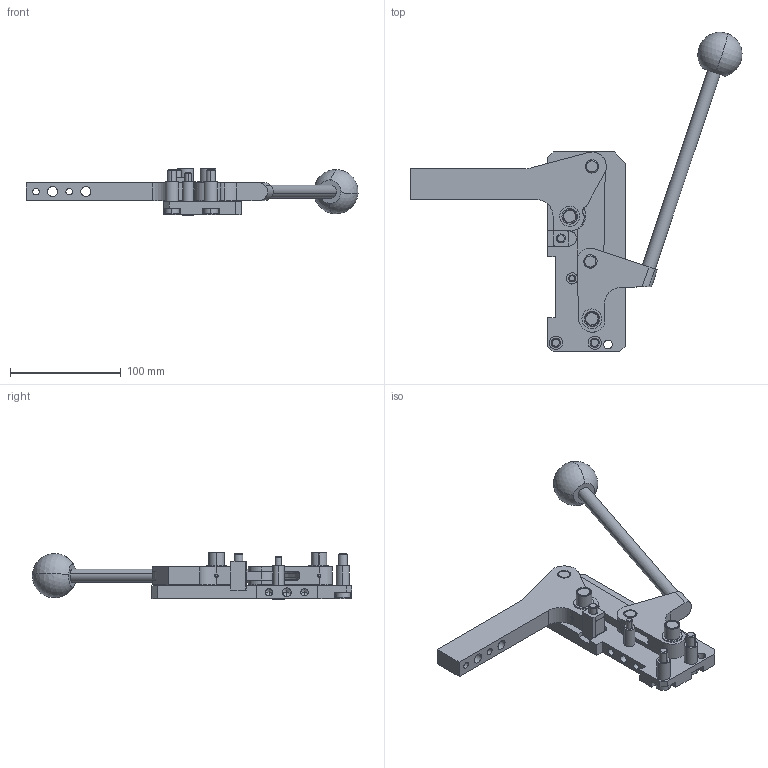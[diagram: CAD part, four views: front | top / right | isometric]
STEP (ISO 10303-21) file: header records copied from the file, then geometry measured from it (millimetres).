
FILE_DESCRIPTION(('CATIA V5 STEP Exchange'),'2;1');
FILE_NAME('G:\Konstruktion\Modelle\HKU_63_A10_TUENKERS.stp','2015-12-14T10:51:04+00:00',('none'),('none'),'CATIA Version 5 Release 19 SP 9 (IN-10)','CATIA V5 STEP AP214','none');
FILE_SCHEMA(('AUTOMOTIVE_DESIGN { 1 0 10303 214 1 1 1 1 }'));
Length unit declared in the file: millimetre
Products named in the file (1): HKU_63_A10_TUENKERS
Bounding box: 299.27 x 287.87 x 42.6 mm (x, y, z)
Volume: 484325.9 mm3; surface area: 145579.9 mm2
Topology: 32 solids, 32 shells, 544 faces, 1412 edges, 904 vertices
Faces by surface type: plane 175, cylinder 175, bspline 140, cone 50, sphere 4
Entity records: 19429 total; most frequent: CARTESIAN_POINT 7963, ORIENTED_EDGE 2752, DIRECTION 1399, EDGE_CURVE 1154, VERTEX_POINT 761, EDGE_LOOP 650, AXIS2_PLACEMENT_3D 596, ADVANCED_FACE 544
